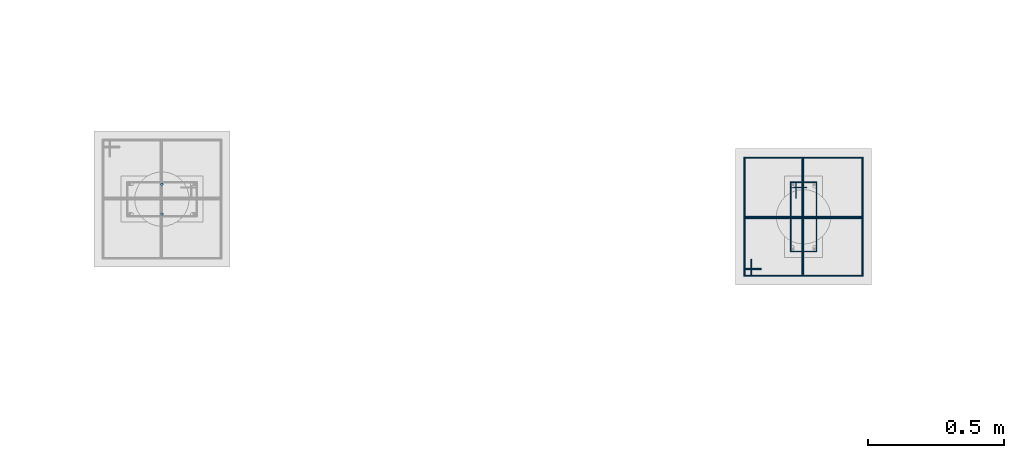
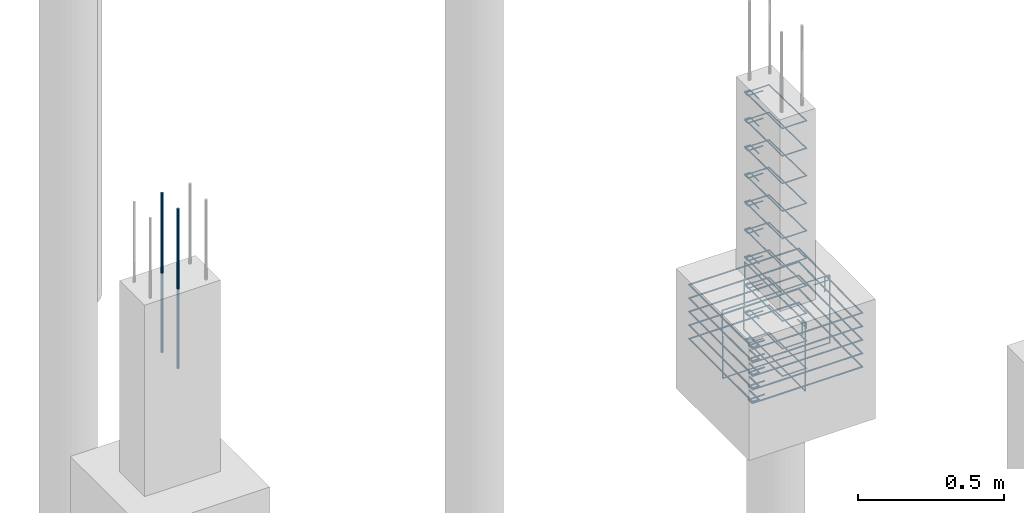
# One storey, part 86 of 119: 19 reinforcing bars.
"""IFC4 building model written with IfcOpenShell, lengths in centimetres."""

from ifc_helpers import new_model, entity, si_unit, derived_unit, frame, origin_with_axes, place, context, project, spatial, source, transform, mapped, element, save


model = new_model("IFC4")

# Units and contexts
model_context = context("Model", 3, precision=1e-05, world=origin_with_axes(), identifier="Body")
ifc_project = project(units=[si_unit("LENGTHUNIT", "METRE", prefix="CENTI"), si_unit("VOLUMEUNIT", "CUBIC_METRE"), si_unit("AREAUNIT", "SQUARE_METRE"), si_unit("POWERUNIT", "WATT"), si_unit("LUMINOUSFLUXUNIT", "LUMEN"), si_unit("ELECTRICCURRENTUNIT", "AMPERE"), si_unit("PRESSUREUNIT", "PASCAL", prefix="KILO"), si_unit("MASSUNIT", "GRAM", prefix="KILO"), si_unit("PLANEANGLEUNIT", "RADIAN"), derived_unit("VOLUMETRICFLOWRATEUNIT", [(si_unit("LENGTHUNIT", "METRE"), 3), (si_unit("TIMEUNIT", "SECOND"), -1)])], contexts=[model_context])

# Site, building, storey
site_placement = place(None, frame((-4000.0, 0.0, 0.0), z_axis=(0.0, 0.0, 1.0), x_axis=(1.0, 0.0, 0.0)))
site = spatial("IfcSite", under=ifc_project, at=site_placement, Name="PADRÃO")
building_placement = place(site_placement, frame((0.0, 0.0, -14.0)))
building = spatial("IfcBuilding", under=site, at=building_placement, Name="CRECHE PRÉ-ESCOLA TIPO 2")
storey_placement = place(building_placement, origin_with_axes())
storey = spatial("IfcBuildingStorey", under=building, at=storey_placement, Name="FUNDAÇÃO", CompositionType="ELEMENT", Elevation=-14.0)

# Reinforcing bars
shared_shape_1 = source(origin_with_axes(), model_context, "Body", "AdvancedSweptSolid", [
    entity("IfcSweptDiskSolid", entity("IfcCompositeCurve", [entity("IfcCompositeCurveSegment", "CONTINUOUS", True, entity("IfcPolyline", [entity("IfcCartesianPoint", [4.25, 21.75, 0.0]), entity("IfcCartesianPoint", [4.25, 27.75, 0.0])])), entity("IfcCompositeCurveSegment", "CONTINUOUS", True, entity("IfcPolyline", [entity("IfcCartesianPoint", [4.25, 27.75, 0.0]), entity("IfcCartesianPoint", [2.25, 27.75, 0.0])])), entity("IfcCompositeCurveSegment", "CONTINUOUS", True, entity("IfcPolyline", [entity("IfcCartesianPoint", [2.25, 27.75, 0.0]), entity("IfcCartesianPoint", [2.25, 2.25, 0.0])])), entity("IfcCompositeCurveSegment", "CONTINUOUS", True, entity("IfcPolyline", [entity("IfcCartesianPoint", [2.25, 2.25, 0.0]), entity("IfcCartesianPoint", [11.75, 2.25, 0.0])])), entity("IfcCompositeCurveSegment", "CONTINUOUS", True, entity("IfcPolyline", [entity("IfcCartesianPoint", [11.75, 2.25, 0.0]), entity("IfcCartesianPoint", [11.75, 27.75, -0.5])])), entity("IfcCompositeCurveSegment", "CONTINUOUS", True, entity("IfcPolyline", [entity("IfcCartesianPoint", [11.75, 27.75, -0.5]), entity("IfcCartesianPoint", [2.25, 27.75, -0.5])])), entity("IfcCompositeCurveSegment", "CONTINUOUS", True, entity("IfcPolyline", [entity("IfcCartesianPoint", [2.25, 27.75, -0.5]), entity("IfcCartesianPoint", [2.25, 25.75, -0.5])])), entity("IfcCompositeCurveSegment", "CONTINUOUS", True, entity("IfcPolyline", [entity("IfcCartesianPoint", [2.25, 25.75, -0.5]), entity("IfcCartesianPoint", [8.25, 25.75, -0.5])]))], False), 0.25),
])
for number, where, z_axis, x_axis, name in (
    (1, (496.69, 2662.01, -5.75), (0.0, 0.0, 1.0), (1.0, 0.0, 0.0), "P66 - Estribo"),
    (2, (496.69, 2662.01, -97.75), (0.0, 0.0, 1.0), (1.0, 0.0, 0.0), "P66 - Estribo"),
    (3, (496.69, 2662.01, -17.25), (0.0, 0.0, 1.0), (1.0, 0.0, 0.0), "P66 - Estribo"),
    (4, (496.69, 2662.01, -28.75), (0.0, 0.0, 1.0), (1.0, 0.0, 0.0), "P66 - Estribo"),
    (5, (496.69, 2662.01, -40.25), (0.0, 0.0, 1.0), (1.0, 0.0, 0.0), "P66 - Estribo"),
    (6, (496.69, 2662.01, -51.75), (0.0, 0.0, 1.0), (1.0, 0.0, 0.0), "P66 - Estribo"),
    (7, (496.69, 2662.01, -63.25), (0.0, 0.0, 1.0), (1.0, 0.0, 0.0), "P66 - Estribo"),
    (8, (496.69, 2662.01, -86.25), (0.0, 0.0, 1.0), (1.0, 0.0, 0.0), "P66 - Estribo"),
    (9, (496.69, 2662.01, -74.75), (0.0, 0.0, 1.0), (1.0, 0.0, 0.0), "P66 - Estribo"),
    (10, (496.69, 2662.01, -109.25), (0.0, 0.0, 1.0), (1.0, 0.0, 0.0), "P66 - Estribo"),
):
    element("IfcReinforcingBar", number, at=place(storey_placement, frame(where, z_axis=z_axis, x_axis=x_axis)), inside=storey, Name=name, BarLength=0.0, CrossSectionArea=1.9634954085e-05, NominalDiameter=0.5, PredefinedType="MAIN", context=model_context, shape_type="MappedRepresentation", body=[
        mapped(shared_shape_1, transform((0.0, 0.0, 0.0), scale=1.0)),
    ])
shared_shape_2 = source(origin_with_axes(), model_context, "Body", "AdvancedSweptSolid", [
    entity("IfcSweptDiskSolid", entity("IfcCompositeCurve", [entity("IfcCompositeCurveSegment", "CONTINUOUS", True, entity("IfcPolyline", [entity("IfcCartesianPoint", [488.265, 2657.845, 0.0]), entity("IfcCartesianPoint", [482.005, 2657.845, 0.0])])), entity("IfcCompositeCurveSegment", "CONTINUOUS", True, entity("IfcPolyline", [entity("IfcCartesianPoint", [482.005, 2657.845, 0.0]), entity("IfcCartesianPoint", [482.005, 2655.325, 0.0])])), entity("IfcCompositeCurveSegment", "CONTINUOUS", True, entity("IfcPolyline", [entity("IfcCartesianPoint", [482.005, 2655.325, 0.0]), entity("IfcCartesianPoint", [525.375, 2655.325, 0.0])])), entity("IfcCompositeCurveSegment", "CONTINUOUS", True, entity("IfcPolyline", [entity("IfcCartesianPoint", [525.375, 2655.325, 0.0]), entity("IfcCartesianPoint", [525.375, 2698.695, 0.63])])), entity("IfcCompositeCurveSegment", "CONTINUOUS", True, entity("IfcPolyline", [entity("IfcCartesianPoint", [525.375, 2698.695, 0.63]), entity("IfcCartesianPoint", [482.005, 2698.695, 0.63])])), entity("IfcCompositeCurveSegment", "CONTINUOUS", True, entity("IfcPolyline", [entity("IfcCartesianPoint", [482.005, 2698.695, 0.63]), entity("IfcCartesianPoint", [482.005, 2655.325, 0.63])])), entity("IfcCompositeCurveSegment", "CONTINUOUS", True, entity("IfcPolyline", [entity("IfcCartesianPoint", [482.005, 2655.325, 0.63]), entity("IfcCartesianPoint", [484.525, 2655.325, 0.63])])), entity("IfcCompositeCurveSegment", "CONTINUOUS", True, entity("IfcPolyline", [entity("IfcCartesianPoint", [484.525, 2655.325, 0.63]), entity("IfcCartesianPoint", [484.525, 2661.585, 0.63])]))], False), 0.315),
])
for number, where, z_axis, x_axis, name in (
    (11, (0.0, 0.0, -86.575), (0.0, 0.0, 1.0), (1.0, 0.0, 0.0), "P66 - Blocos (estribos)"),
    (12, (0.0, 0.0, -92.225), (0.0, 0.0, 1.0), (1.0, 0.0, 0.0), "P66 - Blocos (estribos)"),
    (13, (0.0, 0.0, -109.175), (0.0, 0.0, 1.0), (1.0, 0.0, 0.0), "P66 - Blocos (estribos)"),
    (14, (0.0, 0.0, -103.525), (0.0, 0.0, 1.0), (1.0, 0.0, 0.0), "P66 - Blocos (estribos)"),
    (15, (0.0, 0.0, -97.875), (0.0, 0.0, 1.0), (1.0, 0.0, 0.0), "P66 - Blocos (estribos)"),
):
    element("IfcReinforcingBar", number, at=place(storey_placement, frame(where, z_axis=z_axis, x_axis=x_axis)), inside=storey, Name=name, BarLength=0.0, CrossSectionArea=3.1172453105e-05, NominalDiameter=0.63, PredefinedType="MAIN", context=model_context, shape_type="MappedRepresentation", body=[
        mapped(shared_shape_2, transform((0.0, 0.0, 0.0), scale=1.0)),
    ])
shared_shape_3 = source(origin_with_axes(), model_context, "Body", "AdvancedSweptSolid", [
    entity("IfcSweptDiskSolid", entity("IfcCompositeCurve", [entity("IfcCompositeCurveSegment", "CONTINUOUS", True, entity("IfcPolyline", [entity("IfcCartesianPoint", [-15.12, -12.0, 0.0]), entity("IfcCartesianPoint", [-21.12, -12.0, 0.0])])), entity("IfcCompositeCurveSegment", "CONTINUOUS", True, entity("IfcPolyline", [entity("IfcCartesianPoint", [-21.12, -12.0, 0.0]), entity("IfcCartesianPoint", [-21.12, -14.0, 0.0])])), entity("IfcCompositeCurveSegment", "CONTINUOUS", True, entity("IfcPolyline", [entity("IfcCartesianPoint", [-21.12, -14.0, 0.0]), entity("IfcCartesianPoint", [21.12, -14.0, 0.0])])), entity("IfcCompositeCurveSegment", "CONTINUOUS", True, entity("IfcPolyline", [entity("IfcCartesianPoint", [21.12, -14.0, 0.0]), entity("IfcCartesianPoint", [21.12, 14.0, 0.5])])), entity("IfcCompositeCurveSegment", "CONTINUOUS", True, entity("IfcPolyline", [entity("IfcCartesianPoint", [21.12, 14.0, 0.5]), entity("IfcCartesianPoint", [-21.12, 14.0, 0.5])])), entity("IfcCompositeCurveSegment", "CONTINUOUS", True, entity("IfcPolyline", [entity("IfcCartesianPoint", [-21.12, 14.0, 0.5]), entity("IfcCartesianPoint", [-21.12, -14.0, 0.5])])), entity("IfcCompositeCurveSegment", "CONTINUOUS", True, entity("IfcPolyline", [entity("IfcCartesianPoint", [-21.12, -14.0, 0.5]), entity("IfcCartesianPoint", [-19.12, -14.0, 0.5])])), entity("IfcCompositeCurveSegment", "CONTINUOUS", True, entity("IfcPolyline", [entity("IfcCartesianPoint", [-19.12, -14.0, 0.5]), entity("IfcCartesianPoint", [-19.12, -8.0, 0.5])]))], False), 0.25),
])
reinforcing_bar_1_placement = place(storey_placement, frame((503.69, 2677.01, -97.75), z_axis=(-1.0, 0.0, 0.0), x_axis=(0.0, 1.0, 0.0)))
element("IfcReinforcingBar", 16, at=reinforcing_bar_1_placement, inside=storey, Name="P66 - Blocos (estribos)", BarLength=0.0, CrossSectionArea=1.9634954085e-05, NominalDiameter=0.5, PredefinedType="MAIN", context=model_context, shape_type="MappedRepresentation", body=[
    mapped(shared_shape_3, transform((0.0, 0.0, 0.0), scale=1.0)),
])
shared_shape_4 = source(origin_with_axes(), model_context, "Body", "AdvancedSweptSolid", [
    entity("IfcSweptDiskSolid", entity("IfcCompositeCurve", [entity("IfcCompositeCurveSegment", "CONTINUOUS", True, entity("IfcPolyline", [entity("IfcCartesianPoint", [-15.12, -12.0, 0.0]), entity("IfcCartesianPoint", [-21.12, -12.0, 0.0])])), entity("IfcCompositeCurveSegment", "CONTINUOUS", True, entity("IfcPolyline", [entity("IfcCartesianPoint", [-21.12, -12.0, 0.0]), entity("IfcCartesianPoint", [-21.12, -14.0, 0.0])])), entity("IfcCompositeCurveSegment", "CONTINUOUS", True, entity("IfcPolyline", [entity("IfcCartesianPoint", [-21.12, -14.0, 0.0]), entity("IfcCartesianPoint", [21.12, -14.0, 0.0])])), entity("IfcCompositeCurveSegment", "CONTINUOUS", True, entity("IfcPolyline", [entity("IfcCartesianPoint", [21.12, -14.0, 0.0]), entity("IfcCartesianPoint", [21.12, 14.0, 0.5])])), entity("IfcCompositeCurveSegment", "CONTINUOUS", True, entity("IfcPolyline", [entity("IfcCartesianPoint", [21.12, 14.0, 0.5]), entity("IfcCartesianPoint", [-21.12, 14.0, 0.5])])), entity("IfcCompositeCurveSegment", "CONTINUOUS", True, entity("IfcPolyline", [entity("IfcCartesianPoint", [-21.12, 14.0, 0.5]), entity("IfcCartesianPoint", [-21.12, -14.0, 0.5])])), entity("IfcCompositeCurveSegment", "CONTINUOUS", True, entity("IfcPolyline", [entity("IfcCartesianPoint", [-21.12, -14.0, 0.5]), entity("IfcCartesianPoint", [-19.12, -14.0, 0.5])])), entity("IfcCompositeCurveSegment", "CONTINUOUS", True, entity("IfcPolyline", [entity("IfcCartesianPoint", [-19.12, -14.0, 0.5]), entity("IfcCartesianPoint", [-19.12, -8.0, 0.5])]))], False), 0.25),
])
reinforcing_bar_2_placement = place(storey_placement, frame((503.69, 2677.01, -97.75), z_axis=(0.0, -1.0, 0.0), x_axis=(-1.0, 0.0, 0.0)))
element("IfcReinforcingBar", 17, at=reinforcing_bar_2_placement, inside=storey, Name="P66 - Blocos (estribos)", BarLength=0.0, CrossSectionArea=1.9634954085e-05, NominalDiameter=0.5, PredefinedType="MAIN", context=model_context, shape_type="MappedRepresentation", body=[
    mapped(shared_shape_4, transform((0.0, 0.0, 0.0), scale=1.0)),
])
for number, where, z_axis, x_axis, name in (
    (18, (268.0, 2678.01, 33.3573001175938), (0.0, 0.0, 1.0), (1.0, 0.0, 0.0), "P65 - Longitudinal"),
    (19, (268.0, 2689.01, 33.3573001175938), (0.0, 0.0, 1.0), (1.0, 0.0, 0.0), "P65 - Longitudinal"),
):
    element("IfcReinforcingBar", number, at=place(storey_placement, frame(where, z_axis=z_axis, x_axis=x_axis)), inside=storey, Name=name, BarLength=0.0, CrossSectionArea=7.853981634e-05, NominalDiameter=1.0, PredefinedType="MAIN", context=model_context, shape_type="AdvancedSweptSolid", body=[
        entity("IfcSweptDiskSolid", entity("IfcCompositeCurve", [entity("IfcCompositeCurveSegment", "CONTINUOUS", True, entity("IfcPolyline", [entity("IfcCartesianPoint", [0.0, 0.0, -66.7146002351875]), entity("IfcCartesianPoint", [0.0, 0.0, 0.0])]))], False), 0.5),
    ])

save(model, "model.ifc")
